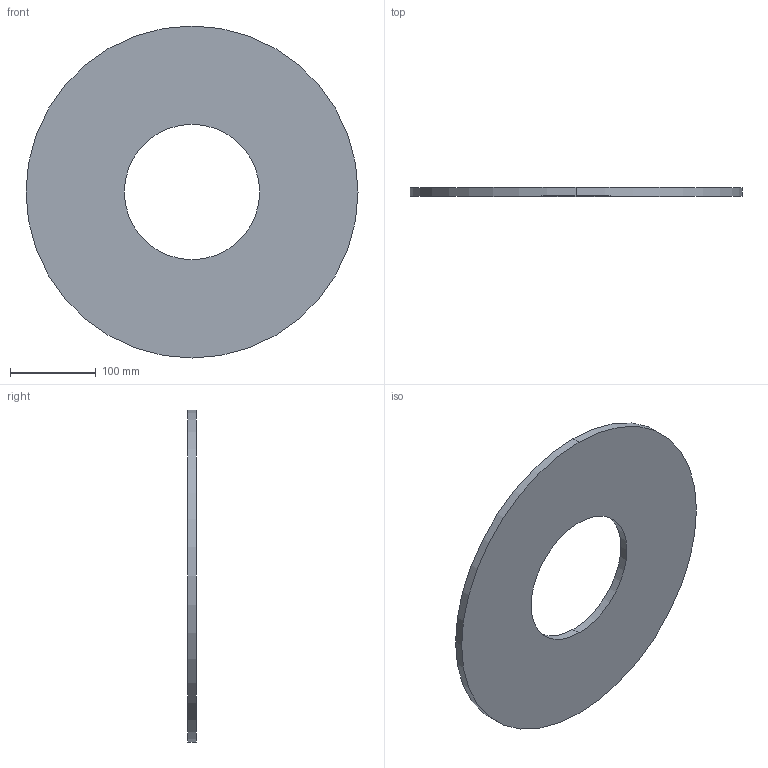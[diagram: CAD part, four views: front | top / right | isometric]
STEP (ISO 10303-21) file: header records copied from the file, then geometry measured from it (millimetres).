
FILE_DESCRIPTION (( 'STEP AP203' ), '1' );
FILE_NAME ('3D_R152_DN114.3_17305265.STEP', '2024-08-13T07:50:22', ( '' ), ( '' ), 'SwSTEP 2.0', 'SolidWorks 2024', '' );
FILE_SCHEMA (( 'CONFIG_CONTROL_DESIGN' ));
Length unit declared in the file: millimetre
Products named in the file (1): 3D_R152_DN114.3_17305265
Bounding box: 387.6 x 10 x 387.6 mm (x, y, z)
Volume: 983866.4 mm3; surface area: 213913.8 mm2
Topology: 1 solids, 1 shells, 6 faces, 12 edges, 8 vertices
Faces by surface type: cylinder 4, plane 2
Entity records: 245 total; most frequent: DIRECTION 34, CARTESIAN_POINT 27, ORIENTED_EDGE 24, AXIS2_PLACEMENT_3D 15, EDGE_CURVE 12, VERTEX_POINT 8, PERSON_AND_ORGANIZATION 8, CIRCLE 8
